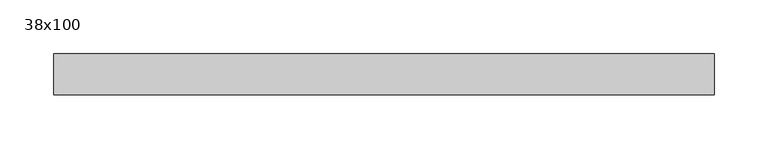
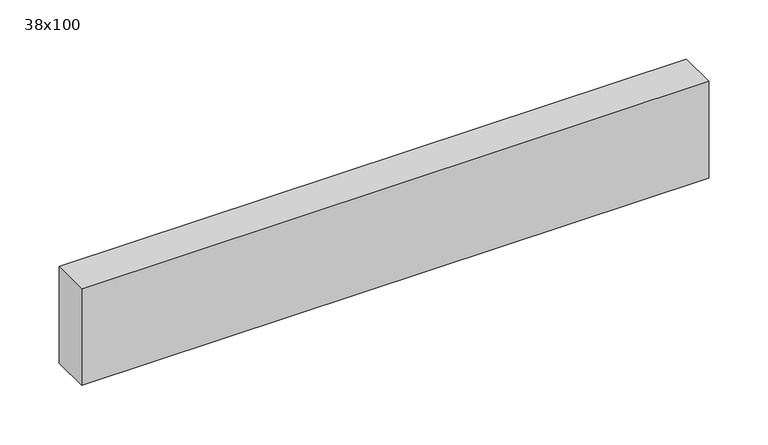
"""IFC4 building model written with IfcOpenShell, lengths in millimetres: beam geometry, Poutre - Bois de construction de dimensions courantes : 38x100."""

from ifc_helpers import new_model, si_unit, frame, origin, place, context, project, spatial, polyline, outline, extrude, source, transform, mapped, element, save


def beam_38x100_11789a70(model_context):
    return source(origin(), model_context, "Body", "SweptSolid", [
        extrude(outline(polyline([(306.5, 19.05), (306.5, -19.05), (-306.5, -19.05), (-306.5, 19.05), (306.5, 19.05)])), frame((0.0, 0.0, -50.0), z_axis=(0.0, 0.0, 1.0), x_axis=(1.0, 0.0, 0.0)), (0.0, 0.0, 1.0), 100.0),
    ])


if __name__ == "__main__":
    model = new_model("IFC4")
    model_context = context("Model", 3, world=origin())
    ifc_project = project(units=[si_unit("LENGTHUNIT", "METRE", prefix="MILLI")], contexts=[model_context])
    site = spatial("IfcSite", under=ifc_project)
    building = spatial("IfcBuilding", under=site)
    placement = place(None, origin())
    beam_38x100_shape = beam_38x100_11789a70(model_context)
    element("IfcBeam", 1, ObjectType="Poutre - Bois de construction de dimensions courantes : 38x100", at=placement, inside=building, context=model_context, shape_type="MappedRepresentation", body=[
        mapped(beam_38x100_shape, transform((0.0, 0.0, 0.0), x_axis=(1.0, 0.0, 0.0), y_axis=(0.0, 1.0, 0.0), z_axis=(0.0, 0.0, 1.0))),
    ])
    save(model, "model.ifc")
